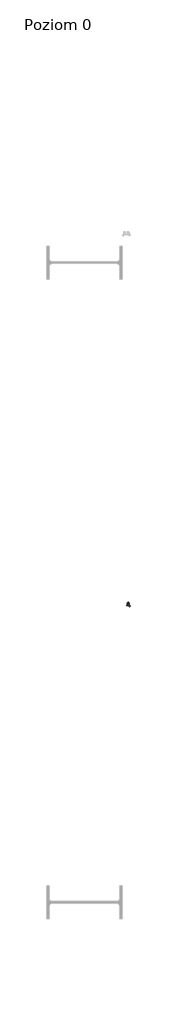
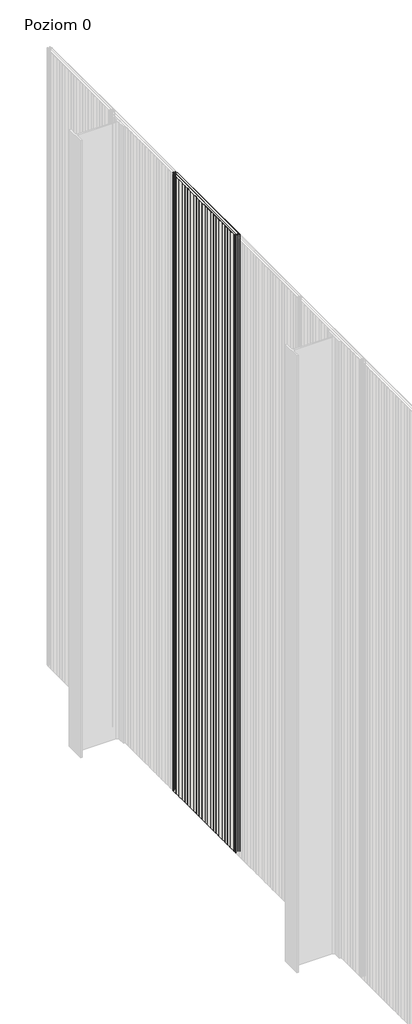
# One storey, part 2 of 3: 1 covering.
"""IFC4 building model written with IfcOpenShell, lengths in millimetres."""

from ifc_helpers import new_model, si_unit, point, frame, frame_2d, origin, origin_with_axes, place, context, project, spatial, polyline, circle_curve, trimmed, segment, composite_curve, outline, extrude, element, save
from ifc_brep_helpers import plane_surface, cylinder_surface, revolved_surface, advanced_brep

model = new_model("IFC4")

# Units and contexts
model_context = context("Model", 3, world=origin())
ifc_project = project(units=[si_unit("LENGTHUNIT", "METRE", prefix="MILLI")], contexts=[model_context])

# Site, building, storey
site = spatial("IfcSite", under=ifc_project)
building = spatial("IfcBuilding", under=site)
storey = spatial("IfcBuildingStorey", under=building, Name="Poziom 0", Elevation=0.0)

# Covering
placement = place(None, origin())
element("IfcCovering", 1, ObjectType="Wall sandwich panel SPW-S CORE PIR (single sheet) : -", at=placement, inside=storey, context=model_context, shape_type="SolidModel", body=[
    advanced_brep(
    [(-411.9662443, -4899.8179323, 6000.0), (-411.9662443, -4899.8179323, 0.0), (-413.965026, -4897.8877313, 0.0), (-413.965026, -4897.8877313, 6000.0), (-407.8962443, -5893.6992705, 0.0), (-407.8962443, -5895.8166227, 0.0), (-411.8950171, -5895.886425, 0.0), (-412.4482019, -5880.0460775, 0.0), (-421.4392937, -5879.9676291, 0.0), (-422.0058103, -5890.7777718, 0.0), (-423.5037548, -5892.1992705, 0.0), (-426.8962443, -5892.1992705, 0.0), (-426.8962443, -4895.1992702, 0.0), (-422.9424747, -4895.1992702, 0.0), (-419.9465861, -4892.3562781, 0.0), (-419.3582727, -4881.1305902, 0.0), (-414.5475529, -4881.2985843, 0.0), (-409.8962443, -4899.8179323, 0.0), (-407.8962443, -4901.8179323, 0.0), (-407.8962443, -5895.8166227, 6000.0), (-407.8962443, -5893.6992705, 6000.0), (-407.8962443, -4901.8179323, 6000.0), (-409.8962443, -4899.8179323, 6000.0), (-414.5443357, -4881.2984719, 6000.0), (-419.3582727, -4881.1305902, 6000.0), (-419.9465861, -4892.3562781, 6000.0), (-422.9424747, -4895.1992702, 6000.0), (-426.8962443, -4895.1992702, 6000.0), (-426.8962443, -5892.1992705, 6000.0), (-423.5037548, -5892.1992705, 6000.0), (-422.0058103, -5890.7777718, 6000.0), (-421.4392937, -5879.9676291, 6000.0), (-412.4482019, -5880.0460775, 6000.0), (-411.8950171, -5895.886425, 6000.0)],
    [
        (0, 1),
        (1, 2, circle_curve(frame((-411.9662443, -4897.8179323, 0.0), z_axis=(0.0, 0.0, -1.0), x_axis=(0.0, -1.0, 0.0)), 2.0)),
        (2, 3),
        (3, 0, circle_curve(frame((-411.9662443, -4897.8179323, 6000.0), z_axis=(0.0, 0.0, 1.0), x_axis=(0.0, -1.0, 0.0)), 2.0)),
        (4, 5),
        (5, 6, circle_curve(frame((-409.8962399, -5895.8166227, 0.0), z_axis=(0.0, 0.0, -1.0), x_axis=(0.0, -1.0, 0.0)), 1.9999956)),
        (6, 7),
        (7, 8, circle_curve(frame((-416.9454604, -5880.2031331, 0.0), z_axis=(0.0, 0.0, 1.0), x_axis=(0.0, -1.0, 0.0)), 4.5)),
        (8, 9),
        (9, 10, circle_curve(frame((-423.5037548, -5890.6992705, 0.0), z_axis=(0.0, 0.0, -1.0), x_axis=(0.0, -1.0, 0.0)), 1.5)),
        (10, 11),
        (11, 12),
        (12, 13),
        (13, 14, circle_curve(frame((-422.9424747, -4892.1992702, 0.0), z_axis=(0.0, 0.0, 1.0), x_axis=(0.0, -1.0, 0.0)), 3.0)),
        (14, 15),
        (15, 16, circle_curve(frame((-416.9587864, -4881.3827864, 0.0), z_axis=(0.0, 0.0, -1.0), x_axis=(0.0, -1.0, 0.0)), 2.4127033)),
        (16, 2),
        (1, 17),
        (17, 18, circle_curve(frame((-409.8962443, -4901.8179323, 0.0), z_axis=(0.0, 0.0, -1.0), x_axis=(0.0, -1.0, 0.0)), 2.0)),
        (18, 4),
        (19, 20),
        (20, 21),
        (21, 22, circle_curve(frame((-409.8962443, -4901.8179323, 6000.0), z_axis=(0.0, 0.0, 1.0), x_axis=(0.0, -1.0, 0.0)), 2.0)),
        (22, 0),
        (3, 23),
        (23, 24, circle_curve(frame((-416.9587864, -4881.3827864, 6000.0), z_axis=(0.0, 0.0, 1.0), x_axis=(0.0, -1.0, 0.0)), 2.4127033)),
        (24, 25),
        (25, 26, circle_curve(frame((-422.9424747, -4892.1992702, 6000.0), z_axis=(0.0, 0.0, -1.0), x_axis=(0.0, -1.0, 0.0)), 3.0)),
        (26, 27),
        (27, 28),
        (28, 29),
        (29, 30, circle_curve(frame((-423.5037548, -5890.6992705, 6000.0), z_axis=(0.0, 0.0, 1.0), x_axis=(0.0, -1.0, 0.0)), 1.5)),
        (30, 31),
        (31, 32, circle_curve(frame((-416.9454604, -5880.2031331, 6000.0), z_axis=(0.0, 0.0, -1.0), x_axis=(0.0, -1.0, 0.0)), 4.5)),
        (32, 33),
        (33, 19, circle_curve(frame((-409.8962399, -5895.8166227, 6000.0), z_axis=(0.0, 0.0, 1.0), x_axis=(0.0, -1.0, 0.0)), 1.9999956)),
        (18, 21),
        (19, 5),
        (11, 28),
        (27, 12),
        (10, 29),
        (9, 30),
        (8, 31),
        (7, 32),
        (6, 33),
        (17, 22),
        (16, 23),
        (15, 24),
        (14, 25),
        (13, 26),
    ],
    [
        revolved_surface(polyline([(-411.9662443, -4899.8179323, 0.0), (-411.9662443, -4899.8179323, 6000.0)]), (-411.9662443, -4897.8179323, 0.0), (0.0, 0.0, -1.0)),
        plane_surface(frame((-407.8962443, -5923.6992705, 0.0), z_axis=(0.0, 0.0, -1.0), x_axis=(0.0, -1.0, 0.0))),
        plane_surface(frame((-407.8962443, -5923.6992705, 6000.0), z_axis=(0.0, 0.0, 1.0), x_axis=(0.0, 1.0, 0.0))),
        plane_surface(frame((-407.8962443, -4843.6992702, 0.0), z_axis=(1.0, 0.0, 0.0), x_axis=(0.0, 0.0, 1.0))),
        plane_surface(frame((-426.8962443, -5923.6992705, 0.0), z_axis=(-1.0, 0.0, 0.0), x_axis=(0.0, 0.0, 1.0))),
        plane_surface(frame((-430.2887339, -5892.1992705, 0.0), z_axis=(0.0, -1.0, 0.0), x_axis=(0.0, 0.0, 1.0))),
        cylinder_surface(frame((-423.5037548, -5890.6992705, 0.0), z_axis=(0.0, 0.0, 1.0), x_axis=(0.0, -1.0, 0.0)), 1.5),
        plane_surface(frame((-422.0058103, -5890.7777718, 0.0), z_axis=(0.998629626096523, -0.052334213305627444, 0.0), x_axis=(0.0, 0.0, 1.0))),
        revolved_surface(polyline([(-416.9454604, -5884.7031331, 0.0), (-416.9454604, -5884.7031331, 6000.0)]), (-416.9454604, -5880.2031331, 0.0), (0.0, 0.0, -1.0)),
        plane_surface(frame((-412.4482019, -5880.0460775, 0.0), z_axis=(-0.9993907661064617, -0.034901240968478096, 0.0), x_axis=(0.0, 0.0, 1.0))),
        cylinder_surface(frame((-409.8962399, -5895.8166227, 0.0), z_axis=(0.0, 0.0, 1.0), x_axis=(0.0, -1.0, 0.0)), 1.9999956),
        cylinder_surface(frame((-409.8962443, -4901.8179323, 0.0), z_axis=(0.0, 0.0, 1.0), x_axis=(0.0, -1.0, 0.0)), 2.0),
        plane_surface(frame((-409.8962443, -4899.8179323, 0.0), z_axis=(0.0, 1.0, 0.0), x_axis=(0.0, 0.0, 1.0))),
        plane_surface(frame((-413.965026, -4897.8877313, 0.0), z_axis=(0.9993908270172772, 0.03489949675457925, 0.0), x_axis=(0.0, 0.0, 1.0))),
        cylinder_surface(frame((-416.9587864, -4881.3827864, 0.0), z_axis=(0.0, 0.0, 1.0), x_axis=(0.0, -1.0, 0.0)), 2.4127033),
        plane_surface(frame((-419.3582727, -4881.1305902, 0.0), z_axis=(-0.9986295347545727, 0.0523359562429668, 0.0), x_axis=(0.0, 0.0, 1.0))),
        revolved_surface(polyline([(-422.9424747, -4895.1992702, 0.0), (-422.9424747, -4895.1992702, 6000.0)]), (-422.9424747, -4892.1992702, 0.0), (0.0, 0.0, -1.0)),
        plane_surface(frame((-422.9424747, -4895.1992702, 0.0), z_axis=(0.0, 1.0, 0.0), x_axis=(0.0, 0.0, 1.0))),
    ],
    [
        (0, [[1, 2, 3, 4]]),
        (1, [[5, 6, 7, 8, 9, 10, 11, 12, 13, 14, 15, 16, 17, -2, 18, 19, 20]]),
        (2, [[21, 22, 23, 24, -4, 25, 26, 27, 28, 29, 30, 31, 32, 33, 34, 35, 36]]),
        (3, [[-5, -20, 37, -22, -21, 38]]),
        (4, [[39, -30, 40, -12]]),
        (5, [[41, -31, -39, -11]]),
        (6, [[-41, -10, 42, -32]]),
        (7, [[-42, -9, 43, -33]]),
        (8, [[-43, -8, 44, -34]]),
        (9, [[-44, -7, 45, -35]]),
        (10, [[-45, -6, -38, -36]]),
        (11, [[46, -23, -37, -19]]),
        (12, [[-46, -18, -1, -24]]),
        (13, [[-3, -17, 47, -25]]),
        (14, [[-47, -16, 48, -26]]),
        (15, [[-48, -15, 49, -27]]),
        (16, [[-49, -14, 50, -28]]),
        (17, [[-50, -13, -40, -29]]),
    ],
),
    advanced_brep(
    [(-441.8974715, -5895.886425, 0.0), (-441.8974715, -5895.886425, 6000.0), (-445.8962443, -5895.8166227, 6000.0), (-445.8962443, -5895.8166227, 0.0), (-441.3442867, -5880.0460775, 0.0), (-441.3442867, -5880.0460775, 6000.0), (-432.3531949, -5879.9676291, 0.0), (-432.3531949, -5879.9676291, 6000.0), (-431.7866783, -5890.7777718, 0.0), (-431.7866783, -5890.7777718, 6000.0), (-430.2887339, -5892.1992705, 0.0), (-430.2887339, -5892.1992705, 6000.0), (-426.8962443, -5892.1992705, 0.0), (-426.8962443, -5892.1992705, 6000.0), (-445.8962443, -5893.6992705, 0.0), (-445.8962443, -4903.3185116, 0.0), (-445.8962443, -4901.8179323, 0.0), (-443.8962443, -4899.8179323, 0.0), (-441.8262443, -4899.8179323, 0.0), (-439.8274627, -4897.8877313, 0.0), (-439.248153, -4881.2984719, 0.0), (-434.474411, -4880.8779274, 0.0), (-433.8459025, -4892.356278, 0.0), (-430.8500139, -4895.1992702, 0.0), (-426.8962443, -4895.1992702, 0.0), (-445.8962443, -5893.6992705, 6000.0), (-426.8962443, -4895.1992702, 6000.0), (-430.8500139, -4895.1992702, 6000.0), (-433.8459025, -4892.356278, 6000.0), (-434.474411, -4880.8779274, 6000.0), (-439.2449358, -4881.2985843, 6000.0), (-439.8274627, -4897.8877313, 6000.0), (-441.8262443, -4899.8179323, 6000.0), (-443.8962443, -4899.8179323, 6000.0), (-445.8962443, -4901.8179323, 6000.0), (-445.8962443, -4903.3185116, 6000.0)],
    [
        (0, 1),
        (1, 2, circle_curve(frame((-443.8962487, -5895.8166227, 6000.0), z_axis=(0.0, 0.0, -1.0), x_axis=(0.0, -1.0, 0.0)), 1.9999956)),
        (2, 3),
        (3, 0, circle_curve(frame((-443.8962487, -5895.8166227, 0.0), z_axis=(0.0, 0.0, 1.0), x_axis=(0.0, -1.0, 0.0)), 1.9999956)),
        (0, 4),
        (4, 5),
        (5, 1),
        (4, 6, circle_curve(frame((-436.8470283, -5880.2031331, 0.0), z_axis=(0.0, 0.0, -1.0), x_axis=(0.0, -1.0, 0.0)), 4.5)),
        (6, 7),
        (7, 5, circle_curve(frame((-436.8470283, -5880.2031331, 6000.0), z_axis=(0.0, 0.0, 1.0), x_axis=(0.0, -1.0, 0.0)), 4.5)),
        (6, 8),
        (8, 9),
        (9, 7),
        (8, 10, circle_curve(frame((-430.2887339, -5890.6992705, 0.0), z_axis=(0.0, 0.0, 1.0), x_axis=(0.0, -1.0, 0.0)), 1.5)),
        (10, 11),
        (11, 9, circle_curve(frame((-430.2887339, -5890.6992705, 6000.0), z_axis=(0.0, 0.0, -1.0), x_axis=(0.0, -1.0, 0.0)), 1.5)),
        (10, 12),
        (12, 13),
        (13, 11),
        (3, 14),
        (14, 15),
        (15, 16),
        (16, 17, circle_curve(frame((-443.8962443, -4901.8179323, 0.0), z_axis=(0.0, 0.0, -1.0), x_axis=(0.0, -1.0, 0.0)), 2.0)),
        (17, 18),
        (18, 19, circle_curve(frame((-441.8262443, -4897.8179323, 0.0), z_axis=(0.0, 0.0, 1.0), x_axis=(0.0, -1.0, 0.0)), 2.0)),
        (19, 20),
        (20, 21, circle_curve(frame((-436.8337022, -4881.3827864, 0.0), z_axis=(0.0, 0.0, -1.0), x_axis=(0.0, -1.0, 0.0)), 2.4127033)),
        (21, 22),
        (22, 23, circle_curve(frame((-430.8500139, -4892.1992702, 0.0), z_axis=(0.0, 0.0, 1.0), x_axis=(0.0, -1.0, 0.0)), 3.0)),
        (23, 24),
        (24, 12),
        (25, 2),
        (13, 26),
        (26, 27),
        (27, 28, circle_curve(frame((-430.8500139, -4892.1992702, 6000.0), z_axis=(0.0, 0.0, -1.0), x_axis=(0.0, -1.0, 0.0)), 3.0)),
        (28, 29),
        (29, 30, circle_curve(frame((-436.8337022, -4881.3827864, 6000.0), z_axis=(0.0, 0.0, 1.0), x_axis=(0.0, -1.0, 0.0)), 2.4127033)),
        (30, 31),
        (31, 32, circle_curve(frame((-441.8262443, -4897.8179323, 6000.0), z_axis=(0.0, 0.0, -1.0), x_axis=(0.0, -1.0, 0.0)), 2.0)),
        (32, 33),
        (33, 34, circle_curve(frame((-443.8962443, -4901.8179323, 6000.0), z_axis=(0.0, 0.0, 1.0), x_axis=(0.0, -1.0, 0.0)), 2.0)),
        (34, 35),
        (35, 25),
        (24, 26),
        (34, 16),
        (23, 27),
        (22, 28),
        (21, 29),
        (20, 30),
        (19, 31),
        (18, 32),
        (17, 33),
    ],
    [
        cylinder_surface(frame((-443.8962487, -5895.8166227, 0.0), z_axis=(0.0, 0.0, 1.0), x_axis=(0.0, -1.0, 0.0)), 1.9999956),
        plane_surface(frame((-441.8974715, -5895.886425, 0.0), z_axis=(0.9993907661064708, -0.034901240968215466, 0.0), x_axis=(0.0, 0.0, 1.0))),
        revolved_surface(polyline([(-436.8470283, -5884.7031331, 0.0), (-436.8470283, -5884.7031331, 6000.0)]), (-436.8470283, -5880.2031331, 0.0), (0.0, 0.0, -1.0)),
        plane_surface(frame((-432.3531949, -5879.9676291, 0.0), z_axis=(-0.9986296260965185, -0.052334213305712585, 0.0), x_axis=(0.0, 0.0, 1.0))),
        cylinder_surface(frame((-430.2887339, -5890.6992705, 0.0), z_axis=(0.0, 0.0, 1.0), x_axis=(0.0, -1.0, 0.0)), 1.5),
        plane_surface(frame((-430.2887339, -5892.1992705, 0.0), z_axis=(0.0, -1.0, 0.0), x_axis=(0.0, 0.0, 1.0))),
        plane_surface(frame((-426.8962443, -5923.6992705, 0.0), z_axis=(0.0, 0.0, -1.0), x_axis=(0.0, -1.0, 0.0))),
        plane_surface(frame((-426.8962443, -5923.6992705, 6000.0), z_axis=(0.0, 0.0, 1.0), x_axis=(0.0, 1.0, 0.0))),
        plane_surface(frame((-426.8962443, -4843.6992702, 0.0), z_axis=(1.0, 0.0, 0.0), x_axis=(0.0, 0.0, 1.0))),
        plane_surface(frame((-445.8962443, -5923.6992705, 0.0), z_axis=(-1.0, 0.0, 0.0), x_axis=(0.0, 0.0, 1.0))),
        plane_surface(frame((-422.9424747, -4895.1992702, 0.0), z_axis=(0.0, 1.0, 0.0), x_axis=(0.0, 0.0, 1.0))),
        revolved_surface(polyline([(-430.8500139, -4895.1992702, 0.0), (-430.8500139, -4895.1992702, 6000.0)]), (-430.8500139, -4892.1992702, 0.0), (0.0, 0.0, -1.0)),
        plane_surface(frame((-433.8459025, -4892.356278, 0.0), z_axis=(0.9985042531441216, 0.05467409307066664, 0.0), x_axis=(0.0, 0.0, 1.0))),
        cylinder_surface(frame((-436.8337022, -4881.3827864, 0.0), z_axis=(0.0, 0.0, 1.0), x_axis=(0.0, -1.0, 0.0)), 2.4127033),
        plane_surface(frame((-439.248153, -4881.2984719, 0.0), z_axis=(-0.9993908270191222, 0.03489949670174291, 0.0), x_axis=(0.0, 0.0, 1.0))),
        revolved_surface(polyline([(-441.8262443, -4899.8179323, 0.0), (-441.8262443, -4899.8179323, 6000.0)]), (-441.8262443, -4897.8179323, 0.0), (0.0, 0.0, -1.0)),
        plane_surface(frame((-441.8262443, -4899.8179323, 0.0), z_axis=(0.0, 1.0, 0.0), x_axis=(0.0, 0.0, 1.0))),
        cylinder_surface(frame((-443.8962443, -4901.8179323, 0.0), z_axis=(0.0, 0.0, 1.0), x_axis=(0.0, -1.0, 0.0)), 2.0),
    ],
    [
        (0, [[1, 2, 3, 4]]),
        (1, [[-1, 5, 6, 7]]),
        (2, [[-6, 8, 9, 10]]),
        (3, [[-9, 11, 12, 13]]),
        (4, [[-12, 14, 15, 16]]),
        (5, [[-15, 17, 18, 19]]),
        (6, [[20, 21, 22, 23, 24, 25, 26, 27, 28, 29, 30, 31, -17, -14, -11, -8, -5, -4]]),
        (7, [[32, -2, -7, -10, -13, -16, -19, 33, 34, 35, 36, 37, 38, 39, 40, 41, 42, 43]]),
        (8, [[-18, -31, 44, -33]]),
        (9, [[-20, -3, -32, -43, -42, 45, -22, -21]]),
        (10, [[46, -34, -44, -30]]),
        (11, [[-46, -29, 47, -35]]),
        (12, [[-47, -28, 48, -36]]),
        (13, [[-48, -27, 49, -37]]),
        (14, [[-49, -26, 50, -38]]),
        (15, [[-50, -25, 51, -39]]),
        (16, [[-51, -24, 52, -40]]),
        (17, [[-52, -23, -45, -41]]),
    ],
),
    advanced_brep(
    [(-407.8962443, -5893.6992702, 0.0), (-407.8962443, -4901.8179323, 0.0), (-409.8962443, -4899.8179323, 0.0), (-411.9662443, -4899.8179323, 0.0), (-413.965026, -4897.8877313, 0.0), (-414.5443357, -4881.2984719, 0.0), (-419.3582727, -4881.1305902, 0.0), (-419.9465861, -4892.3562781, 0.0), (-422.9424747, -4895.1992702, 0.0), (-425.4424747, -4895.1992702, 0.0), (-425.4424747, -4894.1992702, 0.0), (-422.9424747, -4894.1992702, 0.0), (-420.9452156, -4892.3039421, 0.0), (-420.3688614, -4881.3064477, 0.0), (-413.5460831, -4881.3827864, 0.0), (-412.9656351, -4897.8528318, 0.0), (-411.9662443, -4898.8179323, 0.0), (-409.8962443, -4898.8179323, 0.0), (-406.8962443, -4901.8179323, 0.0), (-406.8962443, -5893.6992702, 0.0), (-406.8962443, -4901.8179323, 6000.0), (-406.8962443, -5893.6992702, 6000.0), (-420.9452156, -4892.3039421, 6000.0), (-420.3688614, -4881.3064477, 6000.0), (-409.8962443, -4899.8179323, 6000.0), (-411.9662443, -4899.8179323, 6000.0), (-407.8962443, -4901.8179323, 6000.0), (-425.4424747, -4895.1992702, 6000.0), (-425.4424747, -4894.1992702, 6000.0), (-412.9656351, -4897.8528318, 6000.0), (-411.9662443, -4898.8179323, 6000.0), (-407.8962443, -5893.6992702, 6000.0), (-409.8962443, -4898.8179323, 6000.0), (-413.539443, -4881.421126, 6000.0), (-422.9424747, -4894.1992702, 6000.0), (-422.9424747, -4895.1992702, 6000.0), (-419.9465861, -4892.3562781, 6000.0), (-419.3582727, -4881.1305902, 6000.0), (-414.5475529, -4881.2985843, 6000.0), (-413.965026, -4897.8877313, 6000.0)],
    [
        (0, 1),
        (1, 2, circle_curve(frame((-409.8962443, -4901.8179323, 0.0), z_axis=(0.0, 0.0, 1.0), x_axis=(0.0, 1.0, 0.0)), 2.0)),
        (2, 3),
        (3, 4, circle_curve(frame((-411.9662443, -4897.8179323, 0.0), z_axis=(0.0, 0.0, -1.0), x_axis=(0.0, 1.0, 0.0)), 2.0)),
        (4, 5),
        (5, 6, circle_curve(frame((-416.9587864, -4881.3827864, 0.0), z_axis=(0.0, 0.0, 1.0), x_axis=(0.0, 1.0, 0.0)), 2.4127033)),
        (6, 7),
        (7, 8, circle_curve(frame((-422.9424747, -4892.1992702, 0.0), z_axis=(0.0, 0.0, -1.0), x_axis=(0.0, 1.0, 0.0)), 3.0)),
        (8, 9),
        (9, 10),
        (10, 11),
        (11, 12, circle_curve(frame((-422.9424747, -4892.1992702, 0.0), z_axis=(0.0, 0.0, 1.0), x_axis=(0.0, 1.0, 0.0)), 2.0)),
        (12, 13),
        (13, 14, circle_curve(frame((-416.9587864, -4881.3827864, 0.0), z_axis=(0.0, 0.0, -1.0), x_axis=(0.0, 1.0, 0.0)), 3.4127033)),
        (14, 15),
        (15, 16, circle_curve(frame((-411.9662443, -4897.8179323, 0.0), z_axis=(0.0, 0.0, 1.0), x_axis=(0.0, 1.0, 0.0)), 1.0)),
        (16, 17),
        (17, 18, circle_curve(frame((-409.8962443, -4901.8179323, 0.0), z_axis=(0.0, 0.0, -1.0), x_axis=(0.0, 1.0, 0.0)), 3.0)),
        (18, 19),
        (19, 0),
        (20, 21),
        (21, 19),
        (18, 20),
        (22, 23),
        (23, 13),
        (12, 22),
        (24, 25),
        (25, 3),
        (2, 24),
        (26, 24, circle_curve(frame((-409.8962443, -4901.8179323, 6000.0), z_axis=(0.0, 0.0, 1.0), x_axis=(0.0, 1.0, 0.0)), 2.0)),
        (1, 26),
        (27, 28),
        (28, 10),
        (9, 27),
        (29, 30, circle_curve(frame((-411.9662443, -4897.8179323, 6000.0), z_axis=(0.0, 0.0, 1.0), x_axis=(0.0, 1.0, 0.0)), 1.0)),
        (30, 16),
        (15, 29),
        (31, 21),
        (20, 32, circle_curve(frame((-409.8962443, -4901.8179323, 6000.0), z_axis=(0.0, 0.0, 1.0), x_axis=(0.0, 1.0, 0.0)), 3.0)),
        (32, 30),
        (29, 33),
        (33, 23, circle_curve(frame((-416.9587864, -4881.3827864, 6000.0), z_axis=(0.0, 0.0, 1.0), x_axis=(0.0, 1.0, 0.0)), 3.4127033)),
        (22, 34, circle_curve(frame((-422.9424747, -4892.1992702, 6000.0), z_axis=(0.0, 0.0, -1.0), x_axis=(0.0, 1.0, 0.0)), 2.0)),
        (34, 28),
        (27, 35),
        (35, 36, circle_curve(frame((-422.9424747, -4892.1992702, 6000.0), z_axis=(0.0, 0.0, 1.0), x_axis=(0.0, 1.0, 0.0)), 3.0)),
        (36, 37),
        (37, 38, circle_curve(frame((-416.9587864, -4881.3827864, 6000.0), z_axis=(0.0, 0.0, -1.0), x_axis=(0.0, 1.0, 0.0)), 2.4127033)),
        (38, 39),
        (39, 25, circle_curve(frame((-411.9662443, -4897.8179323, 6000.0), z_axis=(0.0, 0.0, 1.0), x_axis=(0.0, 1.0, 0.0)), 2.0)),
        (26, 31),
        (0, 31),
        (39, 4),
        (38, 5),
        (36, 7),
        (6, 37),
        (35, 8),
        (34, 11),
        (33, 14),
        (17, 32),
    ],
    [
        plane_surface(frame((-407.8962443, -4893.6992702, 0.0), z_axis=(0.0, 0.0, -1.0), x_axis=(0.0, 1.0, 0.0))),
        plane_surface(frame((-406.8962443, -5893.6992702, 6000.0), z_axis=(1.0, 0.0, 0.0), x_axis=(0.0, 0.0, -1.0))),
        plane_surface(frame((-420.3688614, -4881.3064477, 6000.0), z_axis=(-0.9986295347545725, 0.05233595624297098, 0.0), x_axis=(0.0, 0.0, -1.0))),
        plane_surface(frame((-411.9662443, -4899.8179323, 6000.0), z_axis=(0.0, -1.0, 0.0), x_axis=(0.0, 0.0, -1.0))),
        revolved_surface(polyline([(-409.8962443, -4899.8179323, 0.0), (-409.8962443, -4899.8179323, 6000.0)]), (-409.8962443, -4901.8179323, 6000.0), (0.0, 0.0, -1.0)),
        plane_surface(frame((-425.4424747, -4894.1992702, 6000.0), z_axis=(-1.0, 0.0, 0.0), x_axis=(0.0, 0.0, -1.0))),
        revolved_surface(polyline([(-411.9662443, -4896.8179323, 0.0), (-411.9662443, -4896.8179323, 6000.0)]), (-411.9662443, -4897.8179323, 6000.0), (0.0, 0.0, -1.0)),
        plane_surface(frame((-407.8962443, -4893.6992702, 6000.0), z_axis=(0.0, 0.0, 1.0), x_axis=(0.0, 1.0, 0.0))),
        plane_surface(frame((-407.8962443, -4901.8179323, 6000.0), z_axis=(-1.0, 0.0, 0.0), x_axis=(0.0, 0.0, -1.0))),
        cylinder_surface(frame((-411.9662443, -4897.8179323, 6000.0), z_axis=(0.0, 0.0, 1.0), x_axis=(0.0, 1.0, 0.0)), 2.0),
        plane_surface(frame((-414.5443357, -4881.2984719, 6000.0), z_axis=(-0.999390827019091, -0.034899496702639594, 0.0), x_axis=(0.0, 0.0, -1.0))),
        plane_surface(frame((-419.9465861, -4892.3562781, 6000.0), z_axis=(0.9986295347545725, -0.05233595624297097, 0.0), x_axis=(0.0, 0.0, -1.0))),
        cylinder_surface(frame((-422.9424747, -4892.1992702, 6000.0), z_axis=(0.0, 0.0, 1.0), x_axis=(0.0, 1.0, 0.0)), 3.0),
        plane_surface(frame((-425.4424747, -4895.1992702, 6000.0), z_axis=(0.0, -1.0, 0.0), x_axis=(0.0, 0.0, -1.0))),
        plane_surface(frame((-422.9424747, -4894.1992702, 6000.0), z_axis=(0.0, 1.0, 0.0), x_axis=(0.0, 0.0, -1.0))),
        revolved_surface(polyline([(-422.9424747, -4890.1992702, 0.0), (-422.9424747, -4890.1992702, 6000.0)]), (-422.9424747, -4892.1992702, 6000.0), (0.0, 0.0, -1.0)),
        revolved_surface(polyline([(-416.9587864, -4878.9700831, 0.0), (-416.9587864, -4878.9700831, 6000.0)]), (-416.9587864, -4881.3827864, 6000.0), (0.0, 0.0, -1.0)),
        cylinder_surface(frame((-416.9587864, -4881.3827864, 6000.0), z_axis=(0.0, 0.0, 1.0), x_axis=(0.0, 1.0, 0.0)), 3.4127033),
        plane_surface(frame((-407.8962443, -5893.6992702, 6000.0), z_axis=(0.0, -1.0, 0.0), x_axis=(0.0, 0.0, -1.0))),
        cylinder_surface(frame((-409.8962443, -4901.8179323, 6000.0), z_axis=(0.0, 0.0, 1.0), x_axis=(0.0, 1.0, 0.0)), 3.0),
        plane_surface(frame((-409.8962443, -4898.8179323, 6000.0), z_axis=(0.0, 1.0, 0.0), x_axis=(0.0, 0.0, -1.0))),
        plane_surface(frame((-412.9656351, -4897.8528318, 6000.0), z_axis=(0.9993908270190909, 0.03489949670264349, 0.0), x_axis=(0.0, 0.0, -1.0))),
    ],
    [
        (0, [[1, 2, 3, 4, 5, 6, 7, 8, 9, 10, 11, 12, 13, 14, 15, 16, 17, 18, 19, 20]]),
        (1, [[21, 22, -19, 23]]),
        (2, [[24, 25, -13, 26]]),
        (3, [[27, 28, -3, 29]]),
        (4, [[30, -29, -2, 31]]),
        (5, [[32, 33, -10, 34]]),
        (6, [[35, 36, -16, 37]]),
        (7, [[38, -21, 39, 40, -35, 41, 42, -24, 43, 44, -32, 45, 46, 47, 48, 49, 50, -27, -30, 51]]),
        (8, [[-51, -31, -1, 52]]),
        (9, [[-50, 53, -4, -28]]),
        (10, [[-49, 54, -5, -53]]),
        (11, [[-47, 55, -7, 56]]),
        (12, [[-46, 57, -8, -55]]),
        (13, [[-45, -34, -9, -57]]),
        (14, [[-44, 58, -11, -33]]),
        (15, [[-43, -26, -12, -58]]),
        (16, [[-48, -56, -6, -54]]),
        (17, [[-42, 59, -14, -25]]),
        (18, [[-38, -52, -20, -22]]),
        (19, [[-39, -23, -18, 60]]),
        (20, [[-40, -60, -17, -36]]),
        (21, [[-41, -37, -15, -59]]),
    ],
),
    advanced_brep(
    [(-440.8268535, -4897.8528318, 6000.0), (-440.2530457, -4881.421126, 6000.0), (-440.2530457, -4881.421126, 0.0), (-440.8268535, -4897.8528318, 0.0), (-446.8962443, -4948.7267941, 6000.0), (-446.8962443, -4901.8179323, 6000.0), (-446.8962443, -4901.8179323, 0.0), (-446.8962443, -4948.7267941, 0.0), (-446.4962443, -4950.1090705, 6000.0), (-446.4962443, -4950.1090705, 0.0), (-446.4962443, -4994.3267941, 6000.0), (-446.4962443, -4994.3267941, 0.0), (-446.8962443, -4995.7090705, 6000.0), (-446.8962443, -4995.7090705, 0.0), (-446.8962443, -5039.9267941, 6000.0), (-446.8962443, -5039.9267941, 0.0), (-446.8962443, -5131.1267941, 6000.0), (-446.8962443, -5086.9090705, 6000.0), (-446.8962443, -5086.9090705, 0.0), (-446.8962443, -5131.1267941, 0.0), (-446.4962443, -5132.5090705, 6000.0), (-446.4962443, -5132.5090705, 0.0), (-446.4962443, -5176.7267941, 6000.0), (-446.4962443, -5176.7267941, 0.0), (-446.4962443, -5223.7090705, 6000.0), (-446.8962443, -5222.3267941, 6000.0), (-446.8962443, -5222.3267941, 0.0), (-446.4962443, -5223.7090705, 0.0), (-446.4962443, -5267.9267941, 6000.0), (-446.4962443, -5267.9267941, 0.0), (-446.8962443, -5269.3090705, 6000.0), (-446.8962443, -5269.3090705, 0.0), (-446.8962443, -5313.5267941, 6000.0), (-446.8962443, -5313.5267941, 0.0), (-446.4962443, -5314.9090705, 6000.0), (-446.4962443, -5314.9090705, 0.0), (-446.4962443, -5359.1267941, 6000.0), (-446.4962443, -5359.1267941, 0.0), (-446.8962443, -5360.5090705, 6000.0), (-446.8962443, -5360.5090705, 0.0), (-446.8962443, -5404.7267941, 6000.0), (-446.8962443, -5404.7267941, 0.0), (-446.4962443, -5406.1090705, 6000.0), (-446.4962443, -5406.1090705, 0.0), (-446.4962443, -5450.3267941, 6000.0), (-446.4962443, -5450.3267941, 0.0), (-446.8962443, -5451.7090705, 6000.0), (-446.8962443, -5451.7090705, 0.0), (-446.8962443, -5495.9267941, 6000.0), (-446.8962443, -5495.9267941, 0.0), (-446.4962443, -5497.3090705, 6000.0), (-446.4962443, -5497.3090705, 0.0), (-446.4962443, -5541.5267941, 6000.0), (-446.4962443, -5541.5267941, 0.0), (-446.8962443, -5542.9090705, 6000.0), (-446.8962443, -5542.9090705, 0.0), (-446.8962443, -5587.1267941, 6000.0), (-446.8962443, -5587.1267941, 0.0), (-446.4962443, -5588.5090705, 6000.0), (-446.4962443, -5588.5090705, 0.0), (-446.4962443, -5632.7267941, 6000.0), (-446.4962443, -5632.7267941, 0.0), (-446.4962443, -5815.1267941, 6000.0), (-446.4962443, -5770.9090705, 6000.0), (-446.4962443, -5770.9090705, 0.0), (-446.4962443, -5815.1267941, 0.0), (-445.8962443, -5893.6992705, 6000.0), (-446.4962443, -5893.6992705, 6000.0), (-446.4962443, -5893.6992705, 0.0), (-445.8962443, -5893.6992705, 0.0), (-445.8962443, -4901.8179323, 6000.0), (-443.8962443, -4899.8179323, 6000.0), (-441.8262443, -4899.8179323, 6000.0), (-439.8274627, -4897.8877313, 6000.0), (-439.248153, -4881.2984719, 6000.0), (-434.4342159, -4881.1305902, 6000.0), (-433.8459025, -4892.3562781, 6000.0), (-430.8500139, -4895.1992702, 6000.0), (-428.3500139, -4895.1992702, 6000.0), (-428.3500139, -4894.1992702, 6000.0), (-430.8500139, -4894.1992702, 6000.0), (-432.847273, -4892.3039421, 6000.0), (-433.4211174, -4881.3543379, 6000.0), (-441.8262443, -4898.8179323, 6000.0), (-443.8962443, -4898.8179323, 6000.0), (-446.4962443, -5041.3090705, 6000.0), (-446.4962443, -5085.5267941, 6000.0), (-446.8962443, -5178.1090705, 6000.0), (-446.8962443, -5634.1090705, 6000.0), (-446.8962443, -5678.3267941, 6000.0), (-446.4962443, -5679.7090705, 6000.0), (-446.4962443, -5723.9267941, 6000.0), (-446.8962443, -5725.3090705, 6000.0), (-446.8962443, -5769.5267941, 6000.0), (-446.8962443, -5816.5090705, 6000.0), (-446.8962443, -5860.7267941, 6000.0), (-446.4962443, -5862.1090705, 6000.0), (-446.4962443, -5862.1090705, 0.0), (-446.8962443, -5860.7267941, 0.0), (-446.8962443, -5816.5090705, 0.0), (-446.8962443, -5769.5267941, 0.0), (-446.8962443, -5725.3090705, 0.0), (-446.4962443, -5723.9267941, 0.0), (-446.4962443, -5679.7090705, 0.0), (-446.8962443, -5678.3267941, 0.0), (-446.8962443, -5634.1090705, 0.0), (-446.8962443, -5178.1090705, 0.0), (-446.4962443, -5085.5267941, 0.0), (-446.4962443, -5041.3090705, 0.0), (-443.8962443, -4898.8179323, 0.0), (-441.8262443, -4898.8179323, 0.0), (-433.4211174, -4881.3543379, 0.0), (-432.847273, -4892.3039421, 0.0), (-430.8500139, -4894.1992702, 0.0), (-428.3500139, -4894.1992702, 0.0), (-428.3500139, -4895.1992702, 0.0), (-430.8500139, -4895.1992702, 0.0), (-433.8459025, -4892.3562781, 0.0), (-434.4342159, -4881.1305902, 0.0), (-439.2449358, -4881.2985843, 0.0), (-439.8274627, -4897.8877313, 0.0), (-441.8262443, -4899.8179323, 0.0), (-443.8962443, -4899.8179323, 0.0), (-445.8962443, -4901.8179323, 0.0)],
    [
        (0, 1),
        (1, 2),
        (2, 3),
        (3, 0),
        (4, 5),
        (5, 6),
        (6, 7),
        (7, 4),
        (8, 4),
        (7, 9),
        (9, 8),
        (10, 8),
        (9, 11),
        (11, 10),
        (12, 10),
        (11, 13),
        (13, 12),
        (14, 12),
        (13, 15),
        (15, 14),
        (16, 17),
        (17, 18),
        (18, 19),
        (19, 16),
        (20, 16),
        (19, 21),
        (21, 20),
        (22, 20),
        (21, 23),
        (23, 22),
        (24, 25),
        (25, 26),
        (26, 27),
        (27, 24),
        (28, 24),
        (27, 29),
        (29, 28),
        (30, 28),
        (29, 31),
        (31, 30),
        (32, 30),
        (31, 33),
        (33, 32),
        (34, 32),
        (33, 35),
        (35, 34),
        (36, 34),
        (35, 37),
        (37, 36),
        (38, 36),
        (37, 39),
        (39, 38),
        (40, 38),
        (39, 41),
        (41, 40),
        (42, 40),
        (41, 43),
        (43, 42),
        (44, 42),
        (43, 45),
        (45, 44),
        (46, 44),
        (45, 47),
        (47, 46),
        (48, 46),
        (47, 49),
        (49, 48),
        (50, 48),
        (49, 51),
        (51, 50),
        (52, 50),
        (51, 53),
        (53, 52),
        (54, 52),
        (53, 55),
        (55, 54),
        (56, 54),
        (55, 57),
        (57, 56),
        (58, 56),
        (57, 59),
        (59, 58),
        (60, 58),
        (59, 61),
        (61, 60),
        (62, 63),
        (63, 64),
        (64, 65),
        (65, 62),
        (66, 67),
        (67, 68),
        (68, 69),
        (69, 66),
        (70, 71, circle_curve(frame((-443.8962443, -4901.8179323, 6000.0), z_axis=(0.0, 0.0, -1.0), x_axis=(0.0, 1.0, 0.0)), 2.0)),
        (71, 72),
        (72, 73, circle_curve(frame((-441.8262443, -4897.8179323, 6000.0), z_axis=(0.0, 0.0, 1.0), x_axis=(0.0, 1.0, 0.0)), 2.0)),
        (73, 74),
        (74, 75, circle_curve(frame((-436.8337022, -4881.3827864, 6000.0), z_axis=(0.0, 0.0, -1.0), x_axis=(0.0, 1.0, 0.0)), 2.4127033)),
        (75, 76),
        (76, 77, circle_curve(frame((-430.8500139, -4892.1992702, 6000.0), z_axis=(0.0, 0.0, 1.0), x_axis=(0.0, 1.0, 0.0)), 3.0)),
        (77, 78),
        (78, 79),
        (79, 80),
        (80, 81, circle_curve(frame((-430.8500139, -4892.1992702, 6000.0), z_axis=(0.0, 0.0, -1.0), x_axis=(0.0, 1.0, 0.0)), 2.0)),
        (81, 82),
        (82, 1, circle_curve(frame((-436.8337022, -4881.3827864, 6000.0), z_axis=(0.0, 0.0, 1.0), x_axis=(0.0, 1.0, 0.0)), 3.4127033)),
        (0, 83, circle_curve(frame((-441.8262443, -4897.8179323, 6000.0), z_axis=(0.0, 0.0, -1.0), x_axis=(0.0, 1.0, 0.0)), 1.0)),
        (83, 84),
        (84, 5, circle_curve(frame((-443.8962443, -4901.8179323, 6000.0), z_axis=(0.0, 0.0, 1.0), x_axis=(0.0, 1.0, 0.0)), 3.0)),
        (14, 85),
        (85, 86),
        (86, 17),
        (22, 87),
        (87, 25),
        (60, 88),
        (88, 89),
        (89, 90),
        (90, 91),
        (91, 92),
        (92, 93),
        (93, 63),
        (62, 94),
        (94, 95),
        (95, 96),
        (96, 67),
        (66, 70),
        (97, 98),
        (98, 99),
        (99, 65),
        (64, 100),
        (100, 101),
        (101, 102),
        (102, 103),
        (103, 104),
        (104, 105),
        (105, 61),
        (26, 106),
        (106, 23),
        (18, 107),
        (107, 108),
        (108, 15),
        (6, 109, circle_curve(frame((-443.8962443, -4901.8179323, 0.0), z_axis=(0.0, 0.0, -1.0), x_axis=(0.0, 1.0, 0.0)), 3.0)),
        (109, 110),
        (110, 3, circle_curve(frame((-441.8262443, -4897.8179323, 0.0), z_axis=(0.0, 0.0, 1.0), x_axis=(0.0, 1.0, 0.0)), 1.0)),
        (2, 111, circle_curve(frame((-436.8337022, -4881.3827864, 0.0), z_axis=(0.0, 0.0, -1.0), x_axis=(0.0, 1.0, 0.0)), 3.4127033)),
        (111, 112),
        (112, 113, circle_curve(frame((-430.8500139, -4892.1992702, 0.0), z_axis=(0.0, 0.0, 1.0), x_axis=(0.0, 1.0, 0.0)), 2.0)),
        (113, 114),
        (114, 115),
        (115, 116),
        (116, 117, circle_curve(frame((-430.8500139, -4892.1992702, 0.0), z_axis=(0.0, 0.0, -1.0), x_axis=(0.0, 1.0, 0.0)), 3.0)),
        (117, 118),
        (118, 119, circle_curve(frame((-436.8337022, -4881.3827864, 0.0), z_axis=(0.0, 0.0, 1.0), x_axis=(0.0, 1.0, 0.0)), 2.4127033)),
        (119, 120),
        (120, 121, circle_curve(frame((-441.8262443, -4897.8179323, 0.0), z_axis=(0.0, 0.0, -1.0), x_axis=(0.0, 1.0, 0.0)), 2.0)),
        (121, 122),
        (122, 123, circle_curve(frame((-443.8962443, -4901.8179323, 0.0), z_axis=(0.0, 0.0, 1.0), x_axis=(0.0, 1.0, 0.0)), 2.0)),
        (123, 69),
        (68, 97),
        (123, 70),
        (72, 121),
        (120, 73),
        (71, 122),
        (119, 74),
        (75, 118),
        (117, 76),
        (116, 77),
        (115, 78),
        (114, 79),
        (84, 109),
        (83, 110),
        (81, 112),
        (111, 82),
        (80, 113),
        (108, 85),
        (107, 86),
        (106, 87),
        (99, 94),
        (98, 95),
        (97, 96),
        (105, 88),
        (104, 89),
        (103, 90),
        (102, 91),
        (101, 92),
        (100, 93),
    ],
    [
        plane_surface(frame((-440.2530457, -4881.421126, 6000.0), z_axis=(-0.9993908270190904, 0.034899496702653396, 0.0), x_axis=(0.0, 0.0, -1.0))),
        plane_surface(frame((-446.8962443, -4901.8179323, 6000.0), z_axis=(-1.0, 0.0, 0.0), x_axis=(0.0, 0.0, -1.0))),
        plane_surface(frame((-446.8962443, -4948.7267941, 6000.0), z_axis=(-0.9605888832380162, -0.27797301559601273, 0.0), x_axis=(0.0, 0.0, -1.0))),
        plane_surface(frame((-446.4962443, -4950.1090705, 6000.0), z_axis=(-1.0, 0.0, 0.0), x_axis=(0.0, 0.0, -1.0))),
        plane_surface(frame((-446.4962443, -4994.3267941, 6000.0), z_axis=(-0.9605888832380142, 0.2779730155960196, 0.0), x_axis=(0.0, 0.0, -1.0))),
        plane_surface(frame((-446.8962443, -4995.7090705, 6000.0), z_axis=(-1.0, 0.0, 0.0), x_axis=(0.0, 0.0, -1.0))),
        plane_surface(frame((-446.8962443, -5086.9090705, 6000.0), z_axis=(-1.0, 0.0, 0.0), x_axis=(0.0, 0.0, -1.0))),
        plane_surface(frame((-446.8962443, -5131.1267941, 6000.0), z_axis=(-0.9605888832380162, -0.27797301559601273, 0.0), x_axis=(0.0, 0.0, -1.0))),
        plane_surface(frame((-446.4962443, -5132.5090705, 6000.0), z_axis=(-1.0, 0.0, 0.0), x_axis=(0.0, 0.0, -1.0))),
        plane_surface(frame((-446.8962443, -5222.3267941, 6000.0), z_axis=(-0.9605888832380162, -0.27797301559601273, 0.0), x_axis=(0.0, 0.0, -1.0))),
        plane_surface(frame((-446.4962443, -5223.7090705, 6000.0), z_axis=(-1.0, 0.0, 0.0), x_axis=(0.0, 0.0, -1.0))),
        plane_surface(frame((-446.4962443, -5267.9267941, 6000.0), z_axis=(-0.9605888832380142, 0.2779730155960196, 0.0), x_axis=(0.0, 0.0, -1.0))),
        plane_surface(frame((-446.8962443, -5269.3090705, 6000.0), z_axis=(-1.0, 0.0, 0.0), x_axis=(0.0, 0.0, -1.0))),
        plane_surface(frame((-446.8962443, -5313.5267941, 6000.0), z_axis=(-0.9605888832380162, -0.27797301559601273, 0.0), x_axis=(0.0, 0.0, -1.0))),
        plane_surface(frame((-446.4962443, -5314.9090705, 6000.0), z_axis=(-1.0, 0.0, 0.0), x_axis=(0.0, 0.0, -1.0))),
        plane_surface(frame((-446.4962443, -5359.1267941, 6000.0), z_axis=(-0.9605888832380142, 0.2779730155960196, 0.0), x_axis=(0.0, 0.0, -1.0))),
        plane_surface(frame((-446.8962443, -5360.5090705, 6000.0), z_axis=(-1.0, 0.0, 0.0), x_axis=(0.0, 0.0, -1.0))),
        plane_surface(frame((-446.8962443, -5404.7267941, 6000.0), z_axis=(-0.9605888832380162, -0.27797301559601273, 0.0), x_axis=(0.0, 0.0, -1.0))),
        plane_surface(frame((-446.4962443, -5406.1090705, 6000.0), z_axis=(-1.0, 0.0, 0.0), x_axis=(0.0, 0.0, -1.0))),
        plane_surface(frame((-446.4962443, -5450.3267941, 6000.0), z_axis=(-0.9605888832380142, 0.2779730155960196, 0.0), x_axis=(0.0, 0.0, -1.0))),
        plane_surface(frame((-446.8962443, -5451.7090705, 6000.0), z_axis=(-1.0, 0.0, 0.0), x_axis=(0.0, 0.0, -1.0))),
        plane_surface(frame((-446.8962443, -5495.9267941, 6000.0), z_axis=(-0.9605888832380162, -0.27797301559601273, 0.0), x_axis=(0.0, 0.0, -1.0))),
        plane_surface(frame((-446.4962443, -5497.3090705, 6000.0), z_axis=(-1.0, 0.0, 0.0), x_axis=(0.0, 0.0, -1.0))),
        plane_surface(frame((-446.4962443, -5541.5267941, 6000.0), z_axis=(-0.9605888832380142, 0.2779730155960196, 0.0), x_axis=(0.0, 0.0, -1.0))),
        plane_surface(frame((-446.8962443, -5542.9090705, 6000.0), z_axis=(-1.0, 0.0, 0.0), x_axis=(0.0, 0.0, -1.0))),
        plane_surface(frame((-446.8962443, -5587.1267941, 6000.0), z_axis=(-0.9605888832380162, -0.27797301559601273, 0.0), x_axis=(0.0, 0.0, -1.0))),
        plane_surface(frame((-446.4962443, -5588.5090705, 6000.0), z_axis=(-1.0, 0.0, 0.0), x_axis=(0.0, 0.0, -1.0))),
        plane_surface(frame((-446.4962443, -5770.9090705, 6000.0), z_axis=(-1.0, 0.0, 0.0), x_axis=(0.0, 0.0, -1.0))),
        plane_surface(frame((-448.7712443, -5893.6992705, 0.0), z_axis=(0.0, -1.0, 0.0), x_axis=(0.0, 0.0, 1.0))),
        plane_surface(frame((-446.8962443, -4893.6992702, 6000.0), z_axis=(0.0, 0.0, 1.0), x_axis=(0.0, 1.0, 0.0))),
        plane_surface(frame((-446.8962443, -4893.6992702, 0.0), z_axis=(0.0, 0.0, -1.0), x_axis=(0.0, 1.0, 0.0))),
        plane_surface(frame((-445.8962443, -6043.6992702, 6000.0), z_axis=(1.0, 0.0, 0.0), x_axis=(0.0, 0.0, -1.0))),
        cylinder_surface(frame((-441.8262443, -4897.8179323, 6000.0), z_axis=(0.0, 0.0, 1.0), x_axis=(0.0, 1.0, 0.0)), 2.0),
        plane_surface(frame((-443.8962443, -4899.8179323, 6000.0), z_axis=(0.0, -1.0, 0.0), x_axis=(0.0, 0.0, -1.0))),
        revolved_surface(polyline([(-443.8962443, -4899.8179323, 0.0), (-443.8962443, -4899.8179323, 6000.0)]), (-443.8962443, -4901.8179323, 6000.0), (0.0, 0.0, -1.0)),
        plane_surface(frame((-439.8274627, -4897.8877313, 6000.0), z_axis=(0.9993908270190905, -0.0348994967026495, 0.0), x_axis=(0.0, 0.0, -1.0))),
        plane_surface(frame((-434.4342159, -4881.1305902, 6000.0), z_axis=(-0.9986295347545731, -0.05233595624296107, 0.0), x_axis=(0.0, 0.0, -1.0))),
        cylinder_surface(frame((-430.8500139, -4892.1992702, 6000.0), z_axis=(0.0, 0.0, 1.0), x_axis=(0.0, 1.0, 0.0)), 3.0),
        plane_surface(frame((-430.8500139, -4895.1992702, 6000.0), z_axis=(0.0, -1.0, 0.0), x_axis=(0.0, 0.0, -1.0))),
        plane_surface(frame((-428.3500139, -4895.1992702, 6000.0), z_axis=(1.0, 0.0, 0.0), x_axis=(0.0, 0.0, -1.0))),
        cylinder_surface(frame((-443.8962443, -4901.8179323, 6000.0), z_axis=(0.0, 0.0, 1.0), x_axis=(0.0, 1.0, 0.0)), 3.0),
        plane_surface(frame((-441.8262443, -4898.8179323, 6000.0), z_axis=(0.0, 1.0, 0.0), x_axis=(0.0, 0.0, -1.0))),
        revolved_surface(polyline([(-441.8262443, -4896.8179323, 0.0), (-441.8262443, -4896.8179323, 6000.0)]), (-441.8262443, -4897.8179323, 6000.0), (0.0, 0.0, -1.0)),
        plane_surface(frame((-432.847273, -4892.3039421, 6000.0), z_axis=(0.9986295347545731, 0.05233595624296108, 0.0), x_axis=(0.0, 0.0, -1.0))),
        revolved_surface(polyline([(-430.8500139, -4890.1992702, 0.0), (-430.8500139, -4890.1992702, 6000.0)]), (-430.8500139, -4892.1992702, 6000.0), (0.0, 0.0, -1.0)),
        cylinder_surface(frame((-436.8337022, -4881.3827864, 6000.0), z_axis=(0.0, 0.0, 1.0), x_axis=(0.0, 1.0, 0.0)), 3.4127033),
        revolved_surface(polyline([(-436.8337022, -4878.9700831, 0.0), (-436.8337022, -4878.9700831, 6000.0)]), (-436.8337022, -4881.3827864, 6000.0), (0.0, 0.0, -1.0)),
        plane_surface(frame((-428.3500139, -4894.1992702, 6000.0), z_axis=(0.0, 1.0, 0.0), x_axis=(0.0, 0.0, -1.0))),
        plane_surface(frame((-446.8962443, -5039.9267941, 6000.0), z_axis=(-0.9605888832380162, -0.27797301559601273, 0.0), x_axis=(0.0, 0.0, -1.0))),
        plane_surface(frame((-446.4962443, -5041.3090705, 6000.0), z_axis=(-1.0, 0.0, 0.0), x_axis=(0.0, 0.0, -1.0))),
        plane_surface(frame((-446.4962443, -5085.5267941, 6000.0), z_axis=(-0.9605888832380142, 0.2779730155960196, 0.0), x_axis=(0.0, 0.0, -1.0))),
        plane_surface(frame((-446.4962443, -5176.7267941, 6000.0), z_axis=(-0.9605888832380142, 0.2779730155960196, 0.0), x_axis=(0.0, 0.0, -1.0))),
        plane_surface(frame((-446.8962443, -5178.1090705, 6000.0), z_axis=(-1.0, 0.0, 0.0), x_axis=(0.0, 0.0, -1.0))),
        plane_surface(frame((-446.4962443, -5815.1267941, 6000.0), z_axis=(-0.9605888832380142, 0.2779730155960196, 0.0), x_axis=(0.0, 0.0, -1.0))),
        plane_surface(frame((-446.8962443, -5816.5090705, 6000.0), z_axis=(-1.0, 0.0, 0.0), x_axis=(0.0, 0.0, -1.0))),
        plane_surface(frame((-446.8962443, -5860.7267941, 6000.0), z_axis=(-0.9605888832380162, -0.27797301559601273, 0.0), x_axis=(0.0, 0.0, -1.0))),
        plane_surface(frame((-446.4962443, -5862.1090705, 6000.0), z_axis=(-1.0, 0.0, 0.0), x_axis=(0.0, 0.0, -1.0))),
        plane_surface(frame((-446.4962443, -5632.7267941, 6000.0), z_axis=(-0.9605888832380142, 0.2779730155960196, 0.0), x_axis=(0.0, 0.0, -1.0))),
        plane_surface(frame((-446.8962443, -5634.1090705, 6000.0), z_axis=(-1.0, 0.0, 0.0), x_axis=(0.0, 0.0, -1.0))),
        plane_surface(frame((-446.8962443, -5678.3267941, 6000.0), z_axis=(-0.9605888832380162, -0.27797301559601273, 0.0), x_axis=(0.0, 0.0, -1.0))),
        plane_surface(frame((-446.4962443, -5679.7090705, 6000.0), z_axis=(-1.0, 0.0, 0.0), x_axis=(0.0, 0.0, -1.0))),
        plane_surface(frame((-446.4962443, -5723.9267941, 6000.0), z_axis=(-0.9605888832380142, 0.2779730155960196, 0.0), x_axis=(0.0, 0.0, -1.0))),
        plane_surface(frame((-446.8962443, -5725.3090705, 6000.0), z_axis=(-1.0, 0.0, 0.0), x_axis=(0.0, 0.0, -1.0))),
        plane_surface(frame((-446.8962443, -5769.5267941, 6000.0), z_axis=(-0.9605888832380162, -0.27797301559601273, 0.0), x_axis=(0.0, 0.0, -1.0))),
    ],
    [
        (0, [[1, 2, 3, 4]]),
        (1, [[5, 6, 7, 8]]),
        (2, [[9, -8, 10, 11]]),
        (3, [[12, -11, 13, 14]]),
        (4, [[15, -14, 16, 17]]),
        (5, [[18, -17, 19, 20]]),
        (6, [[21, 22, 23, 24]]),
        (7, [[25, -24, 26, 27]]),
        (8, [[28, -27, 29, 30]]),
        (9, [[31, 32, 33, 34]]),
        (10, [[35, -34, 36, 37]]),
        (11, [[38, -37, 39, 40]]),
        (12, [[41, -40, 42, 43]]),
        (13, [[44, -43, 45, 46]]),
        (14, [[47, -46, 48, 49]]),
        (15, [[50, -49, 51, 52]]),
        (16, [[53, -52, 54, 55]]),
        (17, [[56, -55, 57, 58]]),
        (18, [[59, -58, 60, 61]]),
        (19, [[62, -61, 63, 64]]),
        (20, [[65, -64, 66, 67]]),
        (21, [[68, -67, 69, 70]]),
        (22, [[71, -70, 72, 73]]),
        (23, [[74, -73, 75, 76]]),
        (24, [[77, -76, 78, 79]]),
        (25, [[80, -79, 81, 82]]),
        (26, [[83, -82, 84, 85]]),
        (27, [[86, 87, 88, 89]]),
        (28, [[90, 91, 92, 93]]),
        (29, [[94, 95, 96, 97, 98, 99, 100, 101, 102, 103, 104, 105, 106, -1, 107, 108, 109, -5, -9, -12, -15, -18, 110, 111, 112, -21, -25, -28, 113, 114, -31, -35, -38, -41, -44, -47, -50, -53, -56, -59, -62, -65, -68, -71, -74, -77, -80, -83, 115, 116, 117, 118, 119, 120, 121, -86, 122, 123, 124, 125, -90, 126]]),
        (30, [[127, 128, 129, -88, 130, 131, 132, 133, 134, 135, 136, -84, -81, -78, -75, -72, -69, -66, -63, -60, -57, -54, -51, -48, -45, -42, -39, -36, -33, 137, 138, -29, -26, -23, 139, 140, 141, -19, -16, -13, -10, -7, 142, 143, 144, -3, 145, 146, 147, 148, 149, 150, 151, 152, 153, 154, 155, 156, 157, 158, -92, 159]]),
        (31, [[160, -126, -93, -158]]),
        (32, [[-96, 161, -155, 162]]),
        (33, [[-95, 163, -156, -161]]),
        (34, [[-94, -160, -157, -163]]),
        (35, [[-97, -162, -154, 164]]),
        (36, [[-99, 165, -152, 166]]),
        (37, [[-100, -166, -151, 167]]),
        (38, [[-101, -167, -150, 168]]),
        (39, [[-102, -168, -149, 169]]),
        (40, [[-109, 170, -142, -6]]),
        (41, [[-108, 171, -143, -170]]),
        (42, [[-107, -4, -144, -171]]),
        (43, [[-105, 172, -146, 173]]),
        (44, [[-104, 174, -147, -172]]),
        (45, [[-106, -173, -145, -2]]),
        (46, [[-98, -164, -153, -165]]),
        (47, [[-103, -169, -148, -174]]),
        (48, [[-110, -20, -141, 175]]),
        (49, [[-111, -175, -140, 176]]),
        (50, [[-112, -176, -139, -22]]),
        (51, [[-113, -30, -138, 177]]),
        (52, [[-114, -177, -137, -32]]),
        (53, [[-122, -89, -129, 178]]),
        (54, [[-123, -178, -128, 179]]),
        (55, [[-124, -179, -127, 180]]),
        (56, [[-180, -159, -91, -125]]),
        (57, [[-115, -85, -136, 181]]),
        (58, [[-116, -181, -135, 182]]),
        (59, [[-117, -182, -134, 183]]),
        (60, [[-118, -183, -133, 184]]),
        (61, [[-119, -184, -132, 185]]),
        (62, [[-120, -185, -131, 186]]),
        (63, [[-121, -186, -130, -87]]),
    ],
),
    extrude(outline(composite_curve([segment(polyline([(-407.8962443, -5895.8166227), (-407.8962443, -5893.6992705), (-406.8962443, -5893.6992705), (-406.8962443, -5895.8166227)]), True, "CONTINUOUS"), segment(trimmed(circle_curve(frame_2d((-409.8962399, -5895.8166227)), 2.9999956), [point((-406.8962443, -5895.8166227))], [point((-412.8944079, -5895.9213262))], False, "CARTESIAN"), True, "CONTINUOUS"), segment(polyline([(-412.8944079, -5895.9213262), (-413.4475927, -5880.0809787)]), True, "CONTINUOUS"), segment(trimmed(circle_curve(frame_2d((-416.9454604, -5880.2031331)), 3.5), [point((-413.4475927, -5880.0809787))], [point((-420.4406641, -5880.0199633))], True, "CARTESIAN"), True, "CONTINUOUS"), segment(polyline([(-420.4406641, -5880.0199633), (-421.0071807, -5890.830106)]), True, "CONTINUOUS"), segment(trimmed(circle_curve(frame_2d((-423.5037548, -5890.6992705)), 2.5), [point((-421.0071807, -5890.830106))], [point((-423.5037548, -5893.1992705))], False, "CARTESIAN"), True, "CONTINUOUS"), segment(polyline([(-423.5037548, -5893.1992705), (-426.0037548, -5893.1992705), (-426.0037548, -5892.1992705), (-423.5037548, -5892.1992705)]), True, "CONTINUOUS"), segment(trimmed(circle_curve(frame_2d((-423.5037548, -5890.6992705)), 1.5), [point((-423.5037548, -5892.1992705))], [point((-422.0058103, -5890.7777718))], True, "CARTESIAN"), True, "CONTINUOUS"), segment(polyline([(-422.0058103, -5890.7777718), (-421.4392937, -5879.9676291)]), True, "CONTINUOUS"), segment(trimmed(circle_curve(frame_2d((-416.9454604, -5880.2031331)), 4.5), [point((-421.4392937, -5879.9676291))], [point((-412.4482019, -5880.0460775))], False, "CARTESIAN"), True, "CONTINUOUS"), segment(polyline([(-412.4482019, -5880.0460775), (-411.8950171, -5895.886425)]), True, "CONTINUOUS"), segment(trimmed(circle_curve(frame_2d((-409.8962399, -5895.8166227)), 1.9999956), [point((-411.8950171, -5895.886425))], [point((-407.8962443, -5895.8166227))], True, "CARTESIAN"), True, "CONTINUOUS")], self_intersect=False)), origin_with_axes(), (0.0, 0.0, 1.0), 6000.0),
    extrude(outline(composite_curve([segment(trimmed(circle_curve(frame_2d((-443.8962487, -5895.8166227)), 1.9999956), [point((-445.8962443, -5895.8166227))], [point((-441.8974715, -5895.886425))], True, "CARTESIAN"), True, "CONTINUOUS"), segment(polyline([(-441.8974715, -5895.886425), (-441.3442867, -5880.0460775)]), True, "CONTINUOUS"), segment(trimmed(circle_curve(frame_2d((-436.8470283, -5880.2031331)), 4.5), [point((-441.3442867, -5880.0460775))], [point((-432.3531949, -5879.9676291))], False, "CARTESIAN"), True, "CONTINUOUS"), segment(polyline([(-432.3531949, -5879.9676291), (-431.7866783, -5890.7777718)]), True, "CONTINUOUS"), segment(trimmed(circle_curve(frame_2d((-430.2887339, -5890.6992705)), 1.5), [point((-431.7866783, -5890.7777718))], [point((-430.2887339, -5892.1992705))], True, "CARTESIAN"), True, "CONTINUOUS"), segment(polyline([(-430.2887339, -5892.1992705), (-427.7887339, -5892.1992705), (-427.7887339, -5893.1992705), (-430.2887339, -5893.1992705)]), True, "CONTINUOUS"), segment(trimmed(circle_curve(frame_2d((-430.2887339, -5890.6992705)), 2.5), [point((-430.2887339, -5893.1992705))], [point((-432.7853079, -5890.830106))], False, "CARTESIAN"), True, "CONTINUOUS"), segment(polyline([(-432.7853079, -5890.830106), (-433.3518246, -5880.0199633)]), True, "CONTINUOUS"), segment(trimmed(circle_curve(frame_2d((-436.8470283, -5880.2031331)), 3.5), [point((-433.3518246, -5880.0199633))], [point((-440.3448959, -5880.0809787))], True, "CARTESIAN"), True, "CONTINUOUS"), segment(polyline([(-440.3448959, -5880.0809787), (-440.8980808, -5895.9213262)]), True, "CONTINUOUS"), segment(trimmed(circle_curve(frame_2d((-443.8962487, -5895.8166227)), 2.9999956), [point((-440.8980808, -5895.9213262))], [point((-446.8962443, -5895.8166227))], False, "CARTESIAN"), True, "CONTINUOUS"), segment(polyline([(-446.8962443, -5895.8166227), (-446.8962443, -5893.6992705), (-445.8962443, -5893.6992705), (-445.8962443, -5895.8166227)]), True, "CONTINUOUS")], self_intersect=False)), origin_with_axes(), (0.0, 0.0, 1.0), 6000.0),
])

save(model, "model.ifc")
